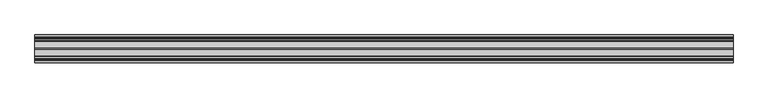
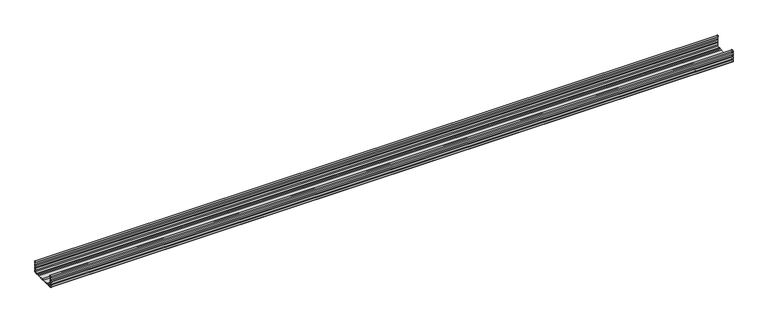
"""IFC4 building model written with IfcOpenShell, lengths in millimetres: proxy geometry, КНАУФ_Профильl ПП 60x27 : КНАУФ_Профильl ПП 60x27."""

from ifc_helpers import new_model, si_unit, point, frame, frame_2d, origin, origin_2d, place, context, project, spatial, polyline, circle_curve, trimmed, segment, composite_curve, outline, extrude, source, transform, mapped, element, save


def mechanical_equipment_9e59f555(model_context):
    return source(origin(), model_context, "Body", "SweptSolid", [
        extrude(outline(composite_curve([segment(trimmed(circle_curve(frame_2d((-27.9311762, 24.93)), 1.2688238), [point((-26.6623525, 24.93))], [point((-29.2, 24.93))], True, "CARTESIAN"), True, "CONTINUOUS"), segment(polyline([(-29.2, 24.93), (-29.2, 22.1840918)]), True, "CONTINUOUS"), segment(trimmed(circle_curve(frame_2d((-30.0, 20.25)), 2.0930149), [point((-29.2, 22.1840918))], [point((-29.2, 18.3159082))], False, "CARTESIAN"), True, "CONTINUOUS"), segment(polyline([(-29.2, 18.3159082), (-29.2, 15.4340918)]), True, "CONTINUOUS"), segment(trimmed(circle_curve(frame_2d((-30.0, 13.5)), 2.0930149), [point((-29.2, 15.4340918))], [point((-29.2, 11.5659082))], False, "CARTESIAN"), True, "CONTINUOUS"), segment(polyline([(-29.2, 11.5659082), (-29.2, 8.6840918)]), True, "CONTINUOUS"), segment(trimmed(circle_curve(frame_2d((-30.0, 6.75)), 2.0930149), [point((-29.2, 8.6840918))], [point((-29.2, 4.8159082))], False, "CARTESIAN"), True, "CONTINUOUS"), segment(polyline([(-29.2, 4.8159082), (-29.2, 0.8), (-22.6228064, 0.8)]), True, "CONTINUOUS"), segment(trimmed(circle_curve(frame_2d((-20.7668677, -0.1675758)), 2.0930149), [point((-22.6228064, 0.8))], [point((-20.7668677, 1.9254391))], False, "CARTESIAN"), True, "CONTINUOUS"), segment(polyline([(-20.7668677, 1.9254391), (-17.1471022, 1.9254391)]), True, "CONTINUOUS"), segment(trimmed(circle_curve(frame_2d((-17.1471022, -0.1675758)), 2.0930149), [point((-17.1471022, 1.9254391))], [point((-15.2911636, 0.8))], False, "CARTESIAN"), True, "CONTINUOUS"), segment(polyline([(-15.2911636, 0.8), (-1.9340918, 0.8)]), True, "CONTINUOUS"), segment(trimmed(circle_curve(origin_2d(), 2.0930149), [point((-1.9340918, 0.8))], [point((1.9340918, 0.8))], False, "CARTESIAN"), True, "CONTINUOUS"), segment(polyline([(1.9340918, 0.8), (15.2260576, 0.8)]), True, "CONTINUOUS"), segment(trimmed(circle_curve(frame_2d((17.1471022, -0.2768239)), 2.202263), [point((15.2260576, 0.8))], [point((17.1471022, 1.9254391))], False, "CARTESIAN"), True, "CONTINUOUS"), segment(polyline([(17.1471022, 1.9254391), (20.7668677, 1.9254391)]), True, "CONTINUOUS"), segment(trimmed(circle_curve(frame_2d((20.7668677, -0.1675758)), 2.0930149), [point((20.7668677, 1.9254391))], [point((22.6228064, 0.8))], False, "CARTESIAN"), True, "CONTINUOUS"), segment(polyline([(22.6228064, 0.8), (29.2, 0.8), (29.2, 4.8159082)]), True, "CONTINUOUS"), segment(trimmed(circle_curve(frame_2d((30.0, 6.75)), 2.0930149), [point((29.2, 4.8159082))], [point((29.2, 8.6840918))], False, "CARTESIAN"), True, "CONTINUOUS"), segment(polyline([(29.2, 8.6840918), (29.2, 11.5659082)]), True, "CONTINUOUS"), segment(trimmed(circle_curve(frame_2d((30.0, 13.5)), 2.0930149), [point((29.2, 11.5659082))], [point((29.2, 15.4340918))], False, "CARTESIAN"), True, "CONTINUOUS"), segment(polyline([(29.2, 15.4340918), (29.2, 18.3159082)]), True, "CONTINUOUS"), segment(trimmed(circle_curve(frame_2d((30.0, 20.25)), 2.0930149), [point((29.2, 18.3159082))], [point((29.2, 22.1840918))], False, "CARTESIAN"), True, "CONTINUOUS"), segment(polyline([(29.2, 22.1840918), (29.2, 24.9846466)]), True, "CONTINUOUS"), segment(trimmed(circle_curve(frame_2d((27.9311762, 24.93)), 1.27), [point((29.2, 24.9846466))], [point((26.6611762, 24.93))], True, "CARTESIAN"), True, "CONTINUOUS"), segment(polyline([(26.6611762, 24.93), (25.8611762, 24.93)]), True, "CONTINUOUS"), segment(trimmed(circle_curve(frame_2d((27.9311762, 24.93)), 2.07), [point((25.8611762, 24.93))], [point((30.0, 24.9997726))], False, "CARTESIAN"), True, "CONTINUOUS"), segment(polyline([(30.0, 24.9997726), (30.0, 21.5430149)]), True, "CONTINUOUS"), segment(trimmed(circle_curve(frame_2d((30.0, 20.25)), 1.2930149), [point((30.0, 21.5430149))], [point((30.0, 18.9569851))], True, "CARTESIAN"), True, "CONTINUOUS"), segment(polyline([(30.0, 18.9569851), (30.0, 14.7930149)]), True, "CONTINUOUS"), segment(trimmed(circle_curve(frame_2d((30.0, 13.5)), 1.2930149), [point((30.0, 14.7930149))], [point((30.0, 12.2069851))], True, "CARTESIAN"), True, "CONTINUOUS"), segment(polyline([(30.0, 12.2069851), (30.0, 8.0430149)]), True, "CONTINUOUS"), segment(trimmed(circle_curve(frame_2d((30.0, 6.75)), 1.2930149), [point((30.0, 8.0430149))], [point((30.0, 5.4569851))], True, "CARTESIAN"), True, "CONTINUOUS"), segment(polyline([(30.0, 5.4569851), (30.0, 1.2930149)]), True, "CONTINUOUS"), segment(trimmed(circle_curve(frame_2d((28.7069851, 1.2930149)), 1.2930149), [point((30.0, 1.2930149))], [point((28.7069851, 0.0))], False, "CARTESIAN"), True, "CONTINUOUS"), segment(polyline([(28.7069851, 0.0), (22.0489776, 0.0)]), True, "CONTINUOUS"), segment(trimmed(circle_curve(frame_2d((20.7668677, -0.1675758)), 1.2930149), [point((22.0489776, 0.0))], [point((20.7668677, 1.1254391))], True, "CARTESIAN"), True, "CONTINUOUS"), segment(polyline([(20.7668677, 1.1254391), (17.1471022, 1.1254391)]), True, "CONTINUOUS"), segment(trimmed(circle_curve(frame_2d((17.1471022, -0.2768239)), 1.402263), [point((17.1471022, 1.1254391))], [point((15.772435, 0.0))], True, "CARTESIAN"), True, "CONTINUOUS"), segment(polyline([(15.772435, 0.0), (1.2930149, 0.0)]), True, "CONTINUOUS"), segment(trimmed(circle_curve(origin_2d(), 1.2930149), [point((1.2930149, 0.0))], [point((-1.2930149, 0.0))], True, "CARTESIAN"), True, "CONTINUOUS"), segment(polyline([(-1.2930149, 0.0), (-15.8649924, 0.0)]), True, "CONTINUOUS"), segment(trimmed(circle_curve(frame_2d((-17.1471022, -0.1675758)), 1.2930149), [point((-15.8649924, 0.0))], [point((-17.1471022, 1.1254391))], True, "CARTESIAN"), True, "CONTINUOUS"), segment(polyline([(-17.1471022, 1.1254391), (-20.7668677, 1.1254391)]), True, "CONTINUOUS"), segment(trimmed(circle_curve(frame_2d((-20.7668677, -0.1675758)), 1.2930149), [point((-20.7668677, 1.1254391))], [point((-22.0489776, 0.0))], True, "CARTESIAN"), True, "CONTINUOUS"), segment(polyline([(-22.0489776, 0.0), (-28.7069851, 0.0)]), True, "CONTINUOUS"), segment(trimmed(circle_curve(frame_2d((-28.7069851, 1.2930149)), 1.2930149), [point((-28.7069851, 0.0))], [point((-30.0, 1.2930149))], False, "CARTESIAN"), True, "CONTINUOUS"), segment(polyline([(-30.0, 1.2930149), (-30.0, 5.4569851)]), True, "CONTINUOUS"), segment(trimmed(circle_curve(frame_2d((-30.0, 6.75)), 1.2930149), [point((-30.0, 5.4569851))], [point((-30.0, 8.0430149))], True, "CARTESIAN"), True, "CONTINUOUS"), segment(polyline([(-30.0, 8.0430149), (-30.0, 12.2069851)]), True, "CONTINUOUS"), segment(trimmed(circle_curve(frame_2d((-30.0, 13.5)), 1.2930149), [point((-30.0, 12.2069851))], [point((-30.0, 14.7930149))], True, "CARTESIAN"), True, "CONTINUOUS"), segment(polyline([(-30.0, 14.7930149), (-30.0, 18.9569851)]), True, "CONTINUOUS"), segment(trimmed(circle_curve(frame_2d((-30.0, 20.25)), 1.2930149), [point((-30.0, 18.9569851))], [point((-30.0, 21.5430149))], True, "CARTESIAN"), True, "CONTINUOUS"), segment(polyline([(-30.0, 21.5430149), (-30.0, 24.93)]), True, "CONTINUOUS"), segment(trimmed(circle_curve(frame_2d((-27.9311762, 24.93)), 2.0688238), [point((-30.0, 24.93))], [point((-25.8623525, 24.93))], False, "CARTESIAN"), True, "CONTINUOUS"), segment(polyline([(-25.8623525, 24.93), (-26.6623525, 24.93)]), True, "CONTINUOUS")], self_intersect=False)), frame((0.0, 0.0, 0.0), z_axis=(1.0, 0.0, 0.0), x_axis=(0.0, 1.0, 0.0)), (0.0, 0.0, 1.0), 1500.0),
    ])


if __name__ == "__main__":
    model = new_model("IFC4")
    model_context = context("Model", 3, world=origin())
    ifc_project = project(units=[si_unit("LENGTHUNIT", "METRE", prefix="MILLI")], contexts=[model_context])
    site = spatial("IfcSite", under=ifc_project)
    building = spatial("IfcBuilding", under=site)
    placement = place(None, origin())
    mechanical_equipment_shape = mechanical_equipment_9e59f555(model_context)
    element("IfcBuildingElementProxy", 1, Name="КНАУФ_Профильl ПП 60x27 : КНАУФ_Профильl ПП 60x27", ObjectType="КНАУФ_Профильl ПП 60x27 : КНАУФ_Профильl ПП 60x27", at=placement, inside=building, context=model_context, shape_type="MappedRepresentation", body=[
        mapped(mechanical_equipment_shape, transform((0.0, 0.0, 0.0), x_axis=(1.0, 0.0, 0.0), y_axis=(0.0, 1.0, 0.0), z_axis=(0.0, 0.0, 1.0))),
    ])
    save(model, "model.ifc")
